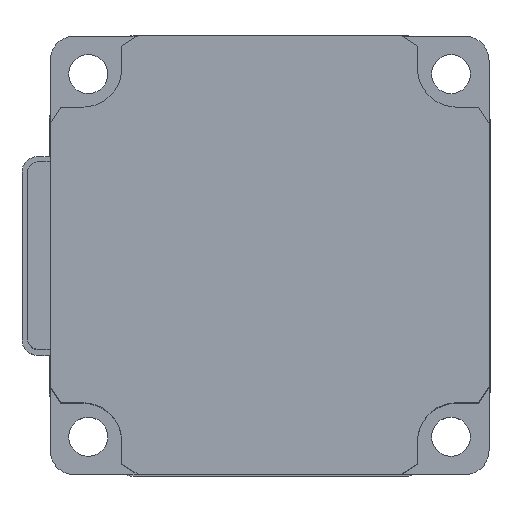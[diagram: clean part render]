
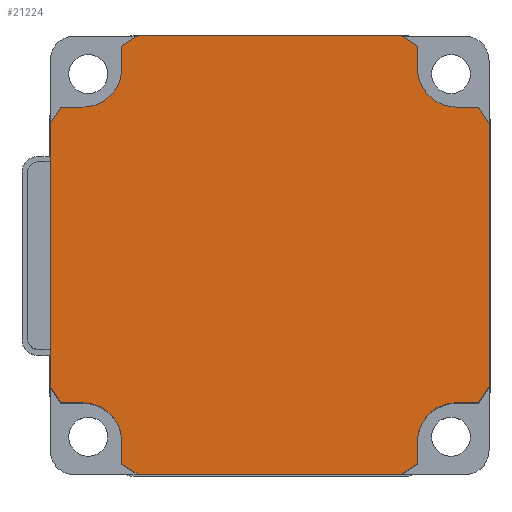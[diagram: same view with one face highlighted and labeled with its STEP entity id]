
A CAD part, top view. The second image highlights one B-rep face of the part: STEP entity #21224.
In plain terms, the highlighted planar face has unit normal (0, 0, 1).
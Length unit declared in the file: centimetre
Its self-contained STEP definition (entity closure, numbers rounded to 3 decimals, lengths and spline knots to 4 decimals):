
#6477=VERTEX_POINT('',#48513);
#6478=VERTEX_POINT('',#48514);
#6481=VERTEX_POINT('',#48522);
#6483=VERTEX_POINT('',#48528);
#6484=VERTEX_POINT('',#48529);
#6487=VERTEX_POINT('',#48537);
#6489=VERTEX_POINT('',#48543);
#6491=VERTEX_POINT('',#48549);
#6493=VERTEX_POINT('',#48555);
#6495=VERTEX_POINT('',#48561);
#6496=VERTEX_POINT('',#48562);
#6499=VERTEX_POINT('',#48570);
#6501=VERTEX_POINT('',#48576);
#6503=VERTEX_POINT('',#48582);
#6505=VERTEX_POINT('',#48588);
#6507=VERTEX_POINT('',#48594);
#6508=VERTEX_POINT('',#48595);
#6511=VERTEX_POINT('',#48603);
#6513=VERTEX_POINT('',#48609);
#6515=VERTEX_POINT('',#48615);
#6517=VERTEX_POINT('',#48621);
#6519=VERTEX_POINT('',#48627);
#6520=VERTEX_POINT('',#48628);
#6523=VERTEX_POINT('',#48636);
#8660=EDGE_CURVE('',#6477,#6478,#24983,.T.);
#8664=EDGE_CURVE('',#6478,#6481,#24987,.T.);
#8667=EDGE_CURVE('',#6483,#6484,#24990,.T.);
#8671=EDGE_CURVE('',#6484,#6487,#24994,.T.);
#8674=EDGE_CURVE('',#6487,#6489,#28058,.T.);
#8677=EDGE_CURVE('',#6489,#6491,#24998,.T.);
#8680=EDGE_CURVE('',#6491,#6493,#25001,.T.);
#8683=EDGE_CURVE('',#6495,#6496,#25004,.T.);
#8687=EDGE_CURVE('',#6496,#6499,#25008,.T.);
#8690=EDGE_CURVE('',#6499,#6501,#28060,.T.);
#8693=EDGE_CURVE('',#6501,#6503,#25012,.T.);
#8696=EDGE_CURVE('',#6503,#6505,#25015,.T.);
#8699=EDGE_CURVE('',#6507,#6508,#25018,.T.);
#8703=EDGE_CURVE('',#6508,#6511,#25022,.T.);
#8706=EDGE_CURVE('',#6511,#6513,#28062,.T.);
#8709=EDGE_CURVE('',#6513,#6515,#25026,.T.);
#8712=EDGE_CURVE('',#6515,#6517,#25029,.T.);
#8715=EDGE_CURVE('',#6519,#6520,#25032,.T.);
#8719=EDGE_CURVE('',#6520,#6523,#25036,.T.);
#8722=EDGE_CURVE('',#6523,#6477,#28064,.T.);
#8724=EDGE_CURVE('',#6517,#6519,#25039,.T.);
#8725=EDGE_CURVE('',#6505,#6507,#25040,.T.);
#8726=EDGE_CURVE('',#6493,#6495,#25041,.T.);
#8727=EDGE_CURVE('',#6481,#6483,#25042,.T.);
#12012=ORIENTED_EDGE('',*,*,#8660,.F.);
#12013=ORIENTED_EDGE('',*,*,#8722,.F.);
#12014=ORIENTED_EDGE('',*,*,#8719,.F.);
#12015=ORIENTED_EDGE('',*,*,#8715,.F.);
#12016=ORIENTED_EDGE('',*,*,#8724,.F.);
#12017=ORIENTED_EDGE('',*,*,#8712,.F.);
#12018=ORIENTED_EDGE('',*,*,#8709,.F.);
#12019=ORIENTED_EDGE('',*,*,#8706,.F.);
#12020=ORIENTED_EDGE('',*,*,#8703,.F.);
#12021=ORIENTED_EDGE('',*,*,#8699,.F.);
#12022=ORIENTED_EDGE('',*,*,#8725,.F.);
#12023=ORIENTED_EDGE('',*,*,#8696,.F.);
#12024=ORIENTED_EDGE('',*,*,#8693,.F.);
#12025=ORIENTED_EDGE('',*,*,#8690,.F.);
#12026=ORIENTED_EDGE('',*,*,#8687,.F.);
#12027=ORIENTED_EDGE('',*,*,#8683,.F.);
#12028=ORIENTED_EDGE('',*,*,#8726,.F.);
#12029=ORIENTED_EDGE('',*,*,#8680,.F.);
#12030=ORIENTED_EDGE('',*,*,#8677,.F.);
#12031=ORIENTED_EDGE('',*,*,#8674,.F.);
#12032=ORIENTED_EDGE('',*,*,#8671,.F.);
#12033=ORIENTED_EDGE('',*,*,#8667,.F.);
#12034=ORIENTED_EDGE('',*,*,#8727,.F.);
#12035=ORIENTED_EDGE('',*,*,#8664,.F.);
#18541=EDGE_LOOP('',(#12012,#12013,#12014,#12015,#12016,#12017,#12018,#12019,
#12020,#12021,#12022,#12023,#12024,#12025,#12026,#12027,#12028,#12029,#12030,
#12031,#12032,#12033,#12034,#12035));
#19883=FACE_BOUND('',#18541,.T.);
#21224=ADVANCED_FACE('',(#19883),#47112,.T.);
#24983=LINE('',#48512,#44364);
#24987=LINE('',#48521,#44368);
#24990=LINE('',#48527,#44371);
#24994=LINE('',#48536,#44375);
#24998=LINE('',#48548,#44379);
#25001=LINE('',#48554,#44382);
#25004=LINE('',#48560,#44385);
#25008=LINE('',#48569,#44389);
#25012=LINE('',#48581,#44393);
#25015=LINE('',#48587,#44396);
#25018=LINE('',#48593,#44399);
#25022=LINE('',#48602,#44403);
#25026=LINE('',#48614,#44407);
#25029=LINE('',#48620,#44410);
#25032=LINE('',#48626,#44413);
#25036=LINE('',#48635,#44417);
#25039=LINE('',#48644,#44420);
#25040=LINE('',#48645,#44421);
#25041=LINE('',#48646,#44422);
#25042=LINE('',#48647,#44423);
#28058=CIRCLE('',#43337,0.508);
#28060=CIRCLE('',#43344,0.508);
#28062=CIRCLE('',#43351,0.508);
#28064=CIRCLE('',#43358,0.508);
#43337=AXIS2_PLACEMENT_3D('',#48542,#66353,#66354);
#43344=AXIS2_PLACEMENT_3D('',#48575,#66377,#66378);
#43351=AXIS2_PLACEMENT_3D('',#48608,#66401,#66402);
#43358=AXIS2_PLACEMENT_3D('',#48641,#66425,#66426);
#43360=AXIS2_PLACEMENT_3D('',#48643,#66429,$);
#44364=VECTOR('',#66334,1.);
#44368=VECTOR('',#66339,1.);
#44371=VECTOR('',#66343,1.);
#44375=VECTOR('',#66348,1.);
#44379=VECTOR('',#66359,1.);
#44382=VECTOR('',#66363,1.);
#44385=VECTOR('',#66367,1.);
#44389=VECTOR('',#66372,1.);
#44393=VECTOR('',#66383,1.);
#44396=VECTOR('',#66387,1.);
#44399=VECTOR('',#66391,1.);
#44403=VECTOR('',#66396,1.);
#44407=VECTOR('',#66407,1.);
#44410=VECTOR('',#66411,1.);
#44413=VECTOR('',#66415,1.);
#44417=VECTOR('',#66420,1.);
#44420=VECTOR('',#66430,1.);
#44421=VECTOR('',#66431,1.);
#44422=VECTOR('',#66432,1.);
#44423=VECTOR('',#66433,1.);
#47112=PLANE('',#43360);
#48512=CARTESIAN_POINT('',(-1.9253,2.4333,4.3942));
#48513=CARTESIAN_POINT('',(-1.9253,2.4333,4.3942));
#48514=CARTESIAN_POINT('',(-1.9253,2.7203,4.3942));
#48521=CARTESIAN_POINT('',(-1.9253,2.7203,4.3942));
#48522=CARTESIAN_POINT('',(-1.7145,2.8575,4.3942));
#48527=CARTESIAN_POINT('',(1.7145,2.8575,4.3942));
#48528=CARTESIAN_POINT('',(1.7145,2.8575,4.3942));
#48529=CARTESIAN_POINT('',(1.9253,2.7203,4.3942));
#48536=CARTESIAN_POINT('',(1.9253,2.7203,4.3942));
#48537=CARTESIAN_POINT('',(1.9253,2.4333,4.3942));
#48542=CARTESIAN_POINT('',(2.4333,2.4333,4.3942));
#48543=CARTESIAN_POINT('',(2.4333,1.9253,4.3942));
#48548=CARTESIAN_POINT('',(2.4333,1.9253,4.3942));
#48549=CARTESIAN_POINT('',(2.7203,1.9253,4.3942));
#48554=CARTESIAN_POINT('',(2.7203,1.9253,4.3942));
#48555=CARTESIAN_POINT('',(2.8575,1.7145,4.3942));
#48560=CARTESIAN_POINT('',(2.8575,-1.7145,4.3942));
#48561=CARTESIAN_POINT('',(2.8575,-1.7145,4.3942));
#48562=CARTESIAN_POINT('',(2.7203,-1.9253,4.3942));
#48569=CARTESIAN_POINT('',(2.7203,-1.9253,4.3942));
#48570=CARTESIAN_POINT('',(2.4333,-1.9253,4.3942));
#48575=CARTESIAN_POINT('',(2.4333,-2.4333,4.3942));
#48576=CARTESIAN_POINT('',(1.9253,-2.4333,4.3942));
#48581=CARTESIAN_POINT('',(1.9253,-2.4333,4.3942));
#48582=CARTESIAN_POINT('',(1.9253,-2.7203,4.3942));
#48587=CARTESIAN_POINT('',(1.9253,-2.7203,4.3942));
#48588=CARTESIAN_POINT('',(1.7145,-2.8575,4.3942));
#48593=CARTESIAN_POINT('',(-1.7145,-2.8575,4.3942));
#48594=CARTESIAN_POINT('',(-1.7145,-2.8575,4.3942));
#48595=CARTESIAN_POINT('',(-1.9253,-2.7203,4.3942));
#48602=CARTESIAN_POINT('',(-1.9253,-2.7203,4.3942));
#48603=CARTESIAN_POINT('',(-1.9253,-2.4333,4.3942));
#48608=CARTESIAN_POINT('',(-2.4333,-2.4333,4.3942));
#48609=CARTESIAN_POINT('',(-2.4333,-1.9253,4.3942));
#48614=CARTESIAN_POINT('',(-2.4333,-1.9253,4.3942));
#48615=CARTESIAN_POINT('',(-2.7203,-1.9253,4.3942));
#48620=CARTESIAN_POINT('',(-2.7203,-1.9253,4.3942));
#48621=CARTESIAN_POINT('',(-2.8575,-1.7145,4.3942));
#48626=CARTESIAN_POINT('',(-2.8575,1.7145,4.3942));
#48627=CARTESIAN_POINT('',(-2.8575,1.7145,4.3942));
#48628=CARTESIAN_POINT('',(-2.7203,1.9253,4.3942));
#48635=CARTESIAN_POINT('',(-2.7203,1.9253,4.3942));
#48636=CARTESIAN_POINT('',(-2.4333,1.9253,4.3942));
#48641=CARTESIAN_POINT('',(-2.4333,2.4333,4.3942));
#48643=CARTESIAN_POINT('',(0.,0.,
4.3942));
#48644=CARTESIAN_POINT('',(-2.8575,-1.7145,4.3942));
#48645=CARTESIAN_POINT('',(1.7145,-2.8575,4.3942));
#48646=CARTESIAN_POINT('',(2.8575,1.7145,4.3942));
#48647=CARTESIAN_POINT('',(-1.7145,2.8575,4.3942));
#66334=DIRECTION('',(0.,1.,0.));
#66339=DIRECTION('',(0.838,0.545,0.));
#66343=DIRECTION('',(0.838,-0.545,0.));
#66348=DIRECTION('',(0.,-1.,0.));
#66353=DIRECTION('',(0.,0.,1.));
#66354=DIRECTION('',(0.508,0.,0.));
#66359=DIRECTION('',(1.,0.,0.));
#66363=DIRECTION('',(0.545,-0.838,0.));
#66367=DIRECTION('',(-0.545,-0.838,0.));
#66372=DIRECTION('',(-1.,0.,0.));
#66377=DIRECTION('',(0.,0.,1.));
#66378=DIRECTION('',(0.508,0.,0.));
#66383=DIRECTION('',(0.,-1.,0.));
#66387=DIRECTION('',(-0.838,-0.545,0.));
#66391=DIRECTION('',(-0.838,0.545,0.));
#66396=DIRECTION('',(0.,1.,0.));
#66401=DIRECTION('',(0.,0.,1.));
#66402=DIRECTION('',(0.508,0.,0.));
#66407=DIRECTION('',(-1.,0.,0.));
#66411=DIRECTION('',(-0.545,0.838,0.));
#66415=DIRECTION('',(0.545,0.838,0.));
#66420=DIRECTION('',(1.,0.,0.));
#66425=DIRECTION('',(0.,0.,1.));
#66426=DIRECTION('',(0.508,0.,0.));
#66429=DIRECTION('',(0.,0.,1.));
#66430=DIRECTION('',(0.,1.,0.));
#66431=DIRECTION('',(-1.,0.,0.));
#66432=DIRECTION('',(0.,-1.,0.));
#66433=DIRECTION('',(1.,0.,0.));
